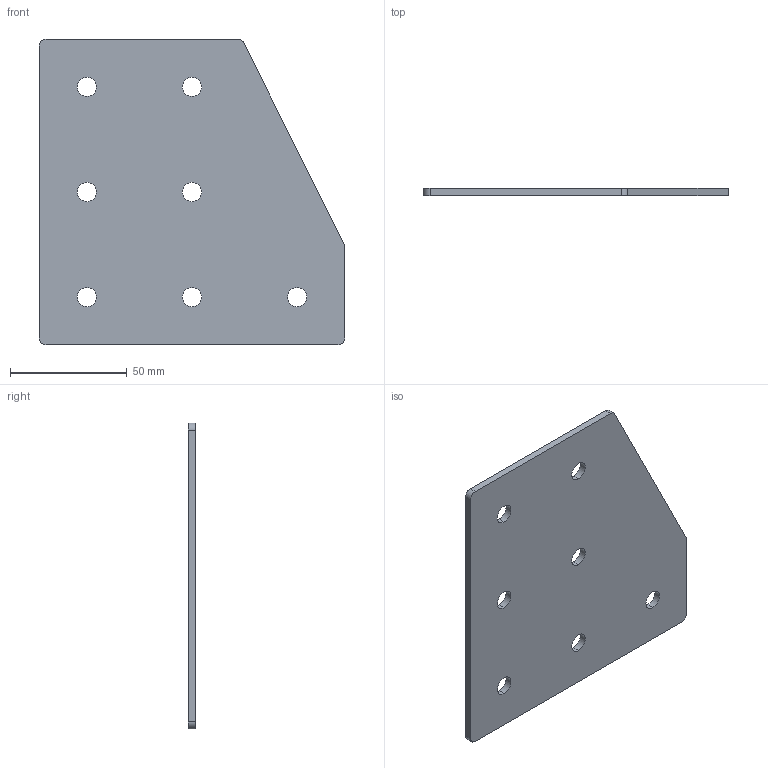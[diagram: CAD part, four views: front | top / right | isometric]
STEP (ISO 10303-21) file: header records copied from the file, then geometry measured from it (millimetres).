
FILE_DESCRIPTION (( 'STEP AP203' ), '1' );
FILE_NAME ('ﾃ-7-ﾓ-45.STEP', '2016-07-21T11:40:17', ( 'RosInstal-MKM' ), ( '' ), 'SwSTEP 2.0', 'SolidWorks 2014', '' );
FILE_SCHEMA (( 'CONFIG_CONTROL_DESIGN' ));
Length unit declared in the file: millimetre
Products named in the file (1): ﾃ-7-ﾓ-45
Bounding box: 131 x 3 x 131 mm (x, y, z)
Surface area: 31655 mm2 (no closed solid volume)
Topology: 0 solids, 1 shells, 26 faces, 72 edges, 48 vertices
Faces by surface type: cylinder 19, plane 7
Entity records: 959 total; most frequent: DIRECTION 164, CARTESIAN_POINT 147, ORIENTED_EDGE 144, EDGE_CURVE 72, AXIS2_PLACEMENT_3D 65, VERTEX_POINT 48, EDGE_LOOP 40, CIRCLE 38
